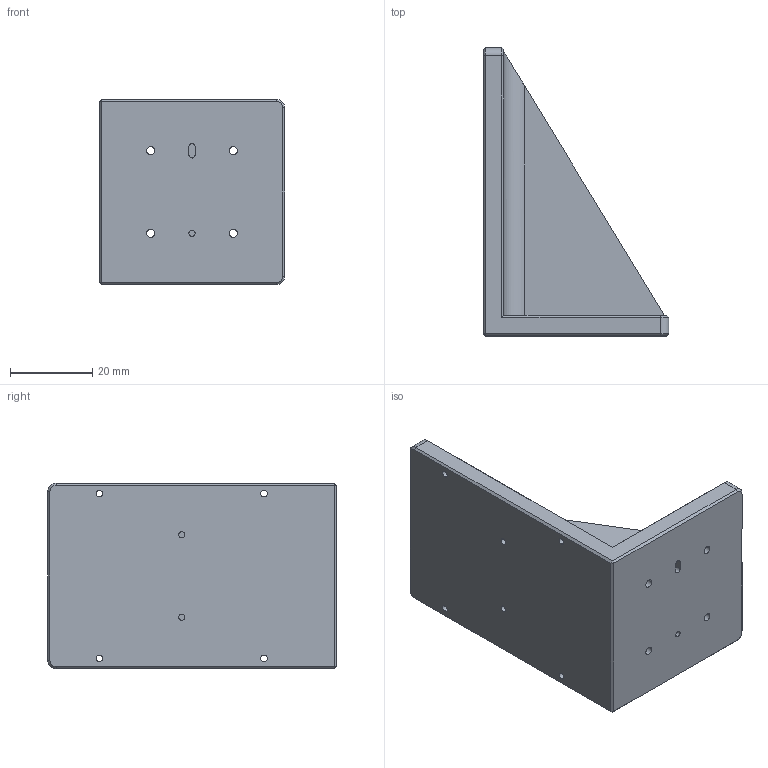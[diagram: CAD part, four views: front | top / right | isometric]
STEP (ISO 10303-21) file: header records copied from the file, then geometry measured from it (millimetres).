
FILE_DESCRIPTION (( 'STEP AP214' ), '1' );
FILE_NAME ('100012_Ver 1_Bracket LL654514.STEP', '2023-02-07T21:19:06', ( '' ), ( '' ), 'SwSTEP 2.0', 'SolidWorks 2016', '' );
FILE_SCHEMA (( 'AUTOMOTIVE_DESIGN' ));
Length unit declared in the file: millimetre
Products named in the file (1): 100012_Ver 1_Bracket LL654514
Bounding box: 45 x 70 x 45 mm (x, y, z)
Volume: 35173.8 mm3; surface area: 13475.6 mm2
Topology: 1 solids, 1 shells, 71 faces, 171 edges, 106 vertices
Faces by surface type: plane 32, cylinder 31, cone 8
Entity records: 2215 total; most frequent: DIRECTION 381, CARTESIAN_POINT 355, ORIENTED_EDGE 342, EDGE_CURVE 171, AXIS2_PLACEMENT_3D 140, VERTEX_POINT 106, VECTOR 101, LINE 101
